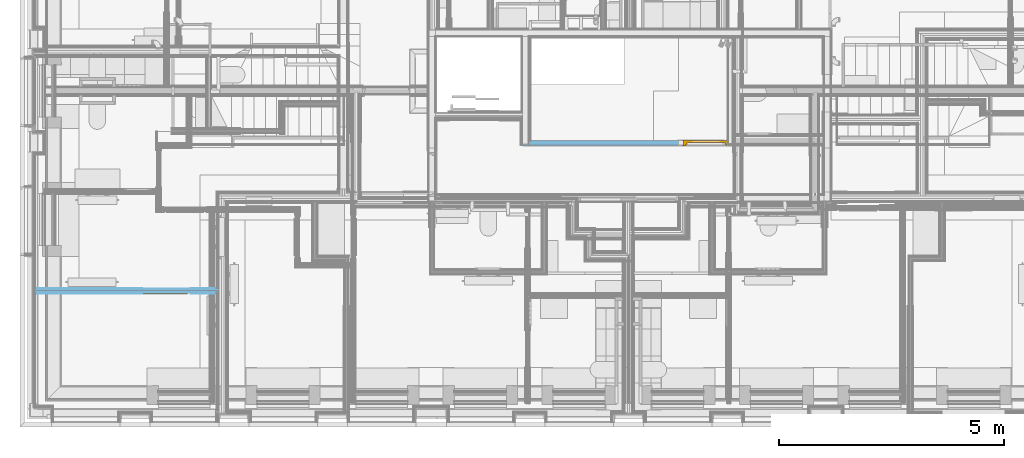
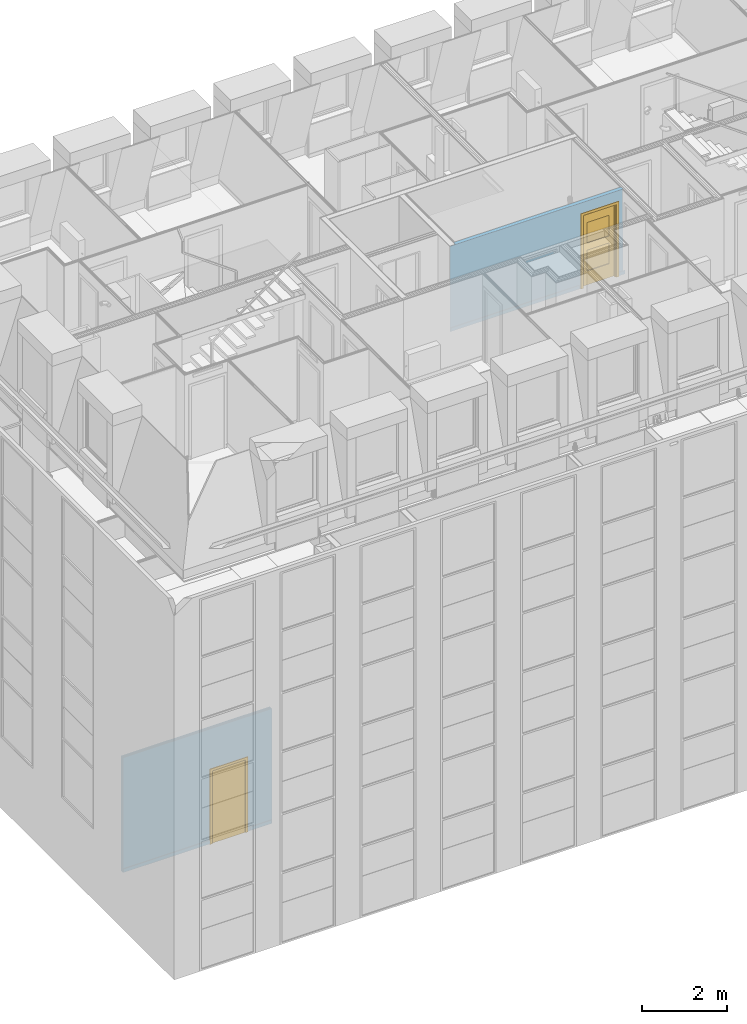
# One storey, part 84 of 169: 2 doors, 2 openings, 1 element without a shape of its own, plus 8 elements that do not belong to this part.
"""IFC2X3 building model written with IfcOpenShell, lengths in metres."""

from ifc_helpers import new_model, entity, si_unit, converted_unit, derived_unit, money_unit, direction, frame, frame_2d, origin_with_axes, place, context, subcontext, project, spatial, polyline, rectangle, outline, extrude, clip, bounded_halfspace, faceted_brep, material, layer, layer_set, layer_usage, type_object, element, fill, aggregate, save


model = new_model("IFC2X3")

# Units and contexts
model_context = context("Model", 3, precision=1e-05, world=origin_with_axes(), true_north=direction((0.0, 1.0)))
body_context = subcontext(model_context, "Body", "Model", "MODEL_VIEW", scale=1.0)
ifc_project = project(units=[si_unit("LENGTHUNIT", "METRE"), si_unit("AREAUNIT", "SQUARE_METRE"), si_unit("VOLUMEUNIT", "CUBIC_METRE"), si_unit("ABSORBEDDOSEUNIT", "GRAY"), si_unit("AMOUNTOFSUBSTANCEUNIT", "MOLE"), si_unit("DOSEEQUIVALENTUNIT", "SIEVERT"), si_unit("ELECTRICCAPACITANCEUNIT", "FARAD"), si_unit("ELECTRICCHARGEUNIT", "COULOMB"), si_unit("ELECTRICCONDUCTANCEUNIT", "SIEMENS"), si_unit("ELECTRICCURRENTUNIT", "AMPERE"), si_unit("ELECTRICRESISTANCEUNIT", "OHM"), si_unit("ELECTRICVOLTAGEUNIT", "VOLT"), si_unit("ENERGYUNIT", "JOULE"), si_unit("FORCEUNIT", "NEWTON"), si_unit("FREQUENCYUNIT", "HERTZ"), si_unit("ILLUMINANCEUNIT", "LUX"), si_unit("INDUCTANCEUNIT", "HENRY"), si_unit("LUMINOUSFLUXUNIT", "LUMEN"), si_unit("LUMINOUSINTENSITYUNIT", "CANDELA"), si_unit("MAGNETICFLUXDENSITYUNIT", "TESLA"), si_unit("MAGNETICFLUXUNIT", "WEBER"), si_unit("MASSUNIT", "GRAM"), converted_unit("PLANEANGLEUNIT", "degree", entity("IfcReal", 0.0174532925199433), si_unit("PLANEANGLEUNIT", "RADIAN"), dimensions=[0, 0, 0, 0, 0, 0, 0]), si_unit("POWERUNIT", "WATT"), si_unit("PRESSUREUNIT", "PASCAL"), si_unit("RADIOACTIVITYUNIT", "BECQUEREL"), si_unit("SOLIDANGLEUNIT", "STERADIAN"), si_unit("THERMODYNAMICTEMPERATUREUNIT", "KELVIN"), si_unit("TIMEUNIT", "SECOND"), derived_unit("ACCELERATIONUNIT", [(si_unit("LENGTHUNIT", "METRE"), 1), (si_unit("TIMEUNIT", "SECOND"), -2)]), derived_unit("ANGULARVELOCITYUNIT", [(converted_unit("PLANEANGLEUNIT", "degree", entity("IfcReal", 0.0174532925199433), si_unit("PLANEANGLEUNIT", "RADIAN"), dimensions=[0, 0, 0, 0, 0, 0, 0]), 1), (si_unit("TIMEUNIT", "SECOND"), -1)]), derived_unit("CURVATUREUNIT", [(converted_unit("PLANEANGLEUNIT", "degree", entity("IfcReal", 0.0174532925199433), si_unit("PLANEANGLEUNIT", "RADIAN"), dimensions=[0, 0, 0, 0, 0, 0, 0]), 1), (si_unit("LENGTHUNIT", "METRE"), -1)]), derived_unit("DYNAMICVISCOSITYUNIT", [(si_unit("PRESSUREUNIT", "PASCAL"), 1), (si_unit("TIMEUNIT", "SECOND"), 1)]), derived_unit("HEATFLUXDENSITYUNIT", [(si_unit("POWERUNIT", "WATT"), 1), (si_unit("LENGTHUNIT", "METRE"), -2)]), derived_unit("HEATINGVALUEUNIT", [(si_unit("ENERGYUNIT", "JOULE"), 1), (si_unit("MASSUNIT", "GRAM"), -1)]), derived_unit("INTEGERCOUNTRATEUNIT", [(si_unit("TIMEUNIT", "SECOND"), -1)]), derived_unit("IONCONCENTRATIONUNIT", [(si_unit("MASSUNIT", "GRAM"), 1), (si_unit("VOLUMEUNIT", "CUBIC_METRE"), -1)]), derived_unit("ISOTHERMALMOISTURECAPACITYUNIT", [(si_unit("VOLUMEUNIT", "CUBIC_METRE"), 1), (si_unit("MASSUNIT", "GRAM"), -1)]), derived_unit("KINEMATICVISCOSITYUNIT", [(si_unit("AREAUNIT", "SQUARE_METRE"), 1), (si_unit("TIMEUNIT", "SECOND"), -1)]), derived_unit("LINEARFORCEUNIT", [(si_unit("FORCEUNIT", "NEWTON"), 1), (si_unit("LENGTHUNIT", "METRE"), -1)]), derived_unit("LINEARMOMENTUNIT", [(si_unit("FORCEUNIT", "NEWTON"), 1), (si_unit("LENGTHUNIT", "METRE"), -1)]), derived_unit("LINEARSTIFFNESSUNIT", [(si_unit("FORCEUNIT", "NEWTON"), 1), (si_unit("LENGTHUNIT", "METRE"), -1)]), derived_unit("LINEARVELOCITYUNIT", [(si_unit("LENGTHUNIT", "METRE"), 1), (si_unit("TIMEUNIT", "SECOND"), -1)]), derived_unit("LUMINOUSINTENSITYDISTRIBUTIONUNIT", [(si_unit("LUMINOUSINTENSITYUNIT", "CANDELA"), 1), (si_unit("LUMINOUSFLUXUNIT", "LUMEN"), -1)]), derived_unit("MASSDENSITYUNIT", [(si_unit("MASSUNIT", "GRAM"), 1), (si_unit("VOLUMEUNIT", "CUBIC_METRE"), -1)]), derived_unit("MASSFLOWRATEUNIT", [(si_unit("MASSUNIT", "GRAM"), 1), (si_unit("TIMEUNIT", "SECOND"), -1)]), derived_unit("MASSPERLENGTHUNIT", [(si_unit("MASSUNIT", "GRAM"), 1), (si_unit("LENGTHUNIT", "METRE"), -1)]), derived_unit("MODULUSOFELASTICITYUNIT", [(si_unit("FORCEUNIT", "NEWTON"), 1), (si_unit("AREAUNIT", "SQUARE_METRE"), -1)]), derived_unit("MODULUSOFLINEARSUBGRADEREACTIONUNIT", [(si_unit("FORCEUNIT", "NEWTON"), 1), (si_unit("LENGTHUNIT", "METRE"), -2)]), derived_unit("MODULUSOFROTATIONALSUBGRADEREACTIONUNIT", [(si_unit("FORCEUNIT", "NEWTON"), 1), (si_unit("LENGTHUNIT", "METRE"), 1)]), derived_unit("MODULUSOFSUBGRADEREACTIONUNIT", [(si_unit("FORCEUNIT", "NEWTON"), 1), (si_unit("VOLUMEUNIT", "CUBIC_METRE"), -1)]), derived_unit("MOISTUREDIFFUSIVITYUNIT", [(si_unit("VOLUMEUNIT", "CUBIC_METRE"), 1), (si_unit("TIMEUNIT", "SECOND"), -1)]), derived_unit("MOLECULARWEIGHTUNIT", [(si_unit("MASSUNIT", "GRAM"), 1), (si_unit("AMOUNTOFSUBSTANCEUNIT", "MOLE"), -1)]), derived_unit("PLANARFORCEUNIT", [(si_unit("FORCEUNIT", "NEWTON"), 1), (si_unit("LENGTHUNIT", "METRE"), -2)]), derived_unit("ROTATIONALFREQUENCYUNIT", [(si_unit("TIMEUNIT", "SECOND"), -1)]), derived_unit("ROTATIONALMASSUNIT", [(si_unit("MASSUNIT", "GRAM"), 1), (si_unit("LENGTHUNIT", "METRE"), 2)]), derived_unit("ROTATIONALSTIFFNESSUNIT", [(si_unit("FORCEUNIT", "NEWTON"), 1), (si_unit("LENGTHUNIT", "METRE"), 1), (converted_unit("PLANEANGLEUNIT", "degree", entity("IfcReal", 0.0174532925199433), si_unit("PLANEANGLEUNIT", "RADIAN"), dimensions=[0, 0, 0, 0, 0, 0, 0]), -1)]), derived_unit("SECTIONAREAINTEGRALUNIT", [(si_unit("LENGTHUNIT", "METRE"), 5)]), derived_unit("SECTIONMODULUSUNIT", [(si_unit("LENGTHUNIT", "METRE"), 3)]), derived_unit("SHEARMODULUSUNIT", [(si_unit("FORCEUNIT", "NEWTON"), 1), (si_unit("AREAUNIT", "SQUARE_METRE"), -1)]), derived_unit("SOUNDPOWERUNIT", [(si_unit("ENERGYUNIT", "JOULE"), 1), (si_unit("TIMEUNIT", "SECOND"), -1)]), derived_unit("SPECIFICHEATCAPACITYUNIT", [(si_unit("FORCEUNIT", "NEWTON"), 1), (si_unit("MASSUNIT", "GRAM"), -1), (si_unit("THERMODYNAMICTEMPERATUREUNIT", "KELVIN"), -1)]), derived_unit("TEMPERATUREGRADIENTUNIT", [(si_unit("THERMODYNAMICTEMPERATUREUNIT", "KELVIN"), 1), (si_unit("LENGTHUNIT", "METRE"), -1)]), derived_unit("THERMALADMITTANCEUNIT", [(si_unit("POWERUNIT", "WATT"), 1), (si_unit("AREAUNIT", "SQUARE_METRE"), -1), (si_unit("THERMODYNAMICTEMPERATUREUNIT", "KELVIN"), -1)]), derived_unit("THERMALCONDUCTANCEUNIT", [(si_unit("POWERUNIT", "WATT"), 1), (si_unit("LENGTHUNIT", "METRE"), -1), (si_unit("THERMODYNAMICTEMPERATUREUNIT", "KELVIN"), -1)]), derived_unit("THERMALEXPANSIONCOEFFICIENTUNIT", [(si_unit("THERMODYNAMICTEMPERATUREUNIT", "KELVIN"), -1)]), derived_unit("THERMALRESISTANCEUNIT", [(si_unit("AREAUNIT", "SQUARE_METRE"), 1), (si_unit("POWERUNIT", "WATT"), -1)]), derived_unit("THERMALTRANSMITTANCEUNIT", [(si_unit("POWERUNIT", "WATT"), 1), (si_unit("AREAUNIT", "SQUARE_METRE"), -1), (si_unit("THERMODYNAMICTEMPERATUREUNIT", "KELVIN"), -1)]), derived_unit("TORQUEUNIT", [(si_unit("FORCEUNIT", "NEWTON"), 1), (si_unit("LENGTHUNIT", "METRE"), 1)]), derived_unit("VAPORPERMEABILITYUNIT", [(si_unit("MASSUNIT", "GRAM"), 1), (si_unit("TIMEUNIT", "SECOND"), -1)]), derived_unit("VOLUMETRICFLOWRATEUNIT", [(si_unit("VOLUMEUNIT", "CUBIC_METRE"), 1), (si_unit("TIMEUNIT", "SECOND"), -1)]), derived_unit("WARPINGCONSTANTUNIT", [(si_unit("LENGTHUNIT", "METRE"), 6)]), derived_unit("WARPINGMOMENTUNIT", [(si_unit("FORCEUNIT", "NEWTON"), 1), (si_unit("LENGTHUNIT", "METRE"), 2)]), money_unit("GBP")], contexts=[model_context])

# Site, building, storey
site_placement = place(None, origin_with_axes())
site = spatial("IfcSite", under=ifc_project, at=site_placement, Name="Site", CompositionType="ELEMENT")
building_placement = place(site_placement, origin_with_axes())
building = spatial("IfcBuilding", under=site, at=building_placement, Name="Building01", CompositionType="ELEMENT")
storey_placement = place(building_placement, frame((0.0, 0.0, 5.15), z_axis=(0.0, 0.0, 1.0), x_axis=(1.0, 0.0, 0.0)))
storey = spatial("IfcBuildingStorey", under=building, at=storey_placement, Name="1F", CompositionType="ELEMENT", Elevation=5.15)

# Wall, opening
ifc_material_1 = material(Name="A_BSUK_Walls_Timber")
ifc_layer_1 = layer(ifc_material_1, 0.015, ventilated=False)
ifc_material_2 = material(Name="A_BSUK_WallInternal_Finishes_Plasterboard")
ifc_layer_2 = layer(ifc_material_2, 0.013, ventilated=False)
ifc_layer_3 = layer(ifc_material_2, 0.012, ventilated=False)
ifc_material_3 = material(Name="Air Cavity")
ifc_layer_4 = layer(ifc_material_3, 0.05, ventilated=False)
ifc_layer_set = layer_set([ifc_layer_1, ifc_layer_2, ifc_layer_3, ifc_layer_4, ifc_layer_3, ifc_layer_2])
ifc_layer_usage = layer_usage(ifc_layer_set, "AXIS2", "POSITIVE", 0.0)
wall_type_1 = type_object("IfcWallType", Name="SHE_A-Walls_Type03c_Firewall_F120_100mm", PredefinedType="NOTDEFINED")
wall_1_placement = place(storey_placement, frame((11.16, 6.25, 9.845), z_axis=(0.0, 0.0, 1.0), x_axis=(1.0, 0.0, 0.0)))
wall_1 = element("IfcWallStandardCase", 1, at=wall_1_placement, inside=storey, type_object=wall_type_1, material=ifc_layer_usage, Name="3C", ObjectType="SHE_A-Walls_Type03c_Firewall_F120_100mm", context=body_context, shape_type="Clipping", body=[
    clip(clip(extrude(outline(polyline([(4.67844, 0.0), (4.67844, 0.013), (4.70844, 0.013), (4.70844, 0.075), (4.69344, 0.087), (4.69344, 0.1), (0.14, 0.1), (0.14, 0.013), (-0.015, 0.013), (-0.015, 0.0), (0.0, 0.0), (0.0, -0.015), (4.75344, -0.015), (4.75344, 0.0), (4.67844, 0.0)])), frame((0.0, 0.0, -0.015), z_axis=(0.0, 0.0, 1.0), x_axis=(1.0, 0.0, 0.0)), (0.0, 0.0, 1.0), 2.468), bounded_halfspace(frame((0.0, 0.0, 0.1), z_axis=(0.0, 0.0, 1.0), x_axis=(1.0, 0.0, 0.0)), False, frame((0.0, 0.0, 0.1), z_axis=(0.0, 0.0, 1.0), x_axis=(1.0, 0.0, 0.0)), polyline([(4.75344, 0.0), (0.0, 0.0), (0.0, -0.015), (4.75344, -0.015), (4.75344, 0.0)]))), bounded_halfspace(frame((0.0, 0.0, 0.0), z_axis=(0.0, 0.0, -1.0), x_axis=(-1.0, 0.0, 0.0)), False, frame((0.0, 0.0, 0.0), z_axis=(0.0, 0.0, -1.0), x_axis=(-1.0, 0.0, 0.0)), polyline([(-4.75344, -0.015), (0.0, -0.015), (0.0, 0.0), (-4.75344, 0.0), (-4.75344, -0.015)]))),
])
opening_1_placement = place(wall_1_placement, frame((3.56744, -0.015, -0.03), z_axis=(0.0, 0.0, 1.0), x_axis=(1.0, 0.0, 0.0)))
opening_1 = element("IfcOpeningElement", 2, at=opening_1_placement, cuts=wall_1, Name="Opening", ObjectType="Opening", context=body_context, shape_type="SweptSolid", body=[
    extrude(outline(polyline([(0.0, 0.0), (0.0, 2.157), (-0.984, 2.157), (-0.984, 0.015), (-0.91756, 0.015), (-0.91756, 0.0), (0.0, 0.0)])), frame((0.0, 0.0, 0.0), z_axis=(0.0, 1.0, 0.0), x_axis=(-1.0, 0.0, 0.0)), (0.0, 0.0, 1.0), 0.115),
    extrude(rectangle(XDim=0.984, YDim=2.157, at=frame_2d((-0.492, 1.0785), x_axis=(1.0, 0.0))), frame((0.0, 0.015, 0.0), z_axis=(0.0, 1.0, 0.0), x_axis=(-1.0, 0.0, 0.0)), (0.0, 0.0, 1.0), 0.013),
    extrude(outline(polyline([(0.0, 2.142), (0.0, 2.157), (-0.984, 2.157), (-0.984, 0.015), (-0.91756, 0.015), (-0.91756, 0.0), (0.06644, 0.0), (0.06644, 2.142), (0.0, 2.142)])), frame((0.0, 0.0, 0.0), z_axis=(0.0, 1.0, 0.0), x_axis=(-1.0, 0.0, 0.0)), (0.0, 0.0, 1.0), 0.015),
    extrude(rectangle(XDim=0.984, YDim=2.157, at=frame_2d((-0.492, 1.0785), x_axis=(1.0, 0.0))), frame((0.0, 0.028, 0.0), z_axis=(0.0, 1.0, 0.0), x_axis=(-1.0, 0.0, 0.0)), (0.0, 0.0, 1.0), 0.012),
    extrude(rectangle(XDim=0.984, YDim=2.157, at=frame_2d((-0.492, 1.0785), x_axis=(1.0, 0.0))), frame((0.0, 0.04, 0.0), z_axis=(0.0, 1.0, 0.0), x_axis=(-1.0, 0.0, 0.0)), (0.0, 0.0, 1.0), 0.05),
    extrude(rectangle(XDim=0.984, YDim=2.157, at=frame_2d((-0.492, 1.0785), x_axis=(1.0, 0.0))), frame((0.0, 0.09, 0.0), z_axis=(0.0, 1.0, 0.0), x_axis=(-1.0, 0.0, 0.0)), (0.0, 0.0, 1.0), 0.012),
    extrude(rectangle(XDim=0.984, YDim=2.157, at=frame_2d((-0.492, 1.0785), x_axis=(1.0, 0.0))), frame((0.0, 0.102, 0.0), z_axis=(0.0, 1.0, 0.0), x_axis=(-1.0, 0.0, 0.0)), (0.0, 0.0, 1.0), 0.013),
])

# Space
space_1_placement = place(storey_placement, frame((15.83844, 8.649812, 9.86), z_axis=(0.0, 0.0, 1.0), x_axis=(-1.0, 0.0, 0.0)))
space_1 = spatial("IfcSpace", under=storey, at=space_1_placement, Name="landing", CompositionType="ELEMENT", InteriorOrExteriorSpace="NOTDEFINED")

# Door
ifc_material_4 = material(Name="A_BSUK_Doors")
door_style_1 = type_object("IfcDoorStyle", Name="A-Doors-SingleVisionPanels", ConstructionType="USERDEFINED", OperationType="SINGLE_SWING_RIGHT", ParameterTakesPrecedence=False, Sizeable=False)
door_1_placement = place(opening_1_placement, frame((0.042, 0.115, 0.015), z_axis=(0.0, 0.0, 1.0), x_axis=(1.0, 0.0, 0.0)))
door_1 = element("IfcDoor", 3, at=door_1_placement, inside=space_1, type_object=door_style_1, material=ifc_material_4, Name="4.04", ObjectType="A-Doors-SingleVisionPanels", OverallHeight=2.15700000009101, OverallWidth=1.05043971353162, context=body_context, shape_type="Brep", body=[
    faceted_brep([(0.9, -0.119, 0.0), (0.969, -0.119, 0.0), (0.969, -0.119, 2.169), (-0.069, -0.119, 2.169), (-0.069, -0.119, 0.0), (0.0, -0.119, 0.0), (0.0, -0.119, 2.1), (0.9, -0.119, 2.1), (-0.069, -0.1, 0.0), (-0.069, -0.1, 2.169), (0.969, -0.1, 2.169), (0.969, -0.1, 0.0), (0.9, 0.019, 0.0), (0.969, 0.019, 0.0), (0.969, 0.0, 0.0), (0.942, 0.0, 0.0), (0.942, -0.1, 0.0), (0.9, 0.019, 2.1), (0.0, 0.019, 2.1), (0.0, 0.019, 0.0), (-0.069, 0.019, 0.0), (-0.069, 0.019, 2.169), (0.969, 0.019, 2.169), (0.969, 0.0, 2.169), (0.942, -0.1, 2.142), (0.942, 0.0, 2.142), (-0.042, -0.1, 2.142), (-0.042, 0.0, 2.142), (-0.042, -0.1, 0.0), (-0.042, 0.0, 0.0), (-0.069, 0.0, 2.169), (-0.069, 0.0, 0.0)], [[[0, 1, 2, 3, 4, 5, 6, 7]], [[8, 4, 3, 9]], [[10, 2, 1, 11]], [[9, 3, 2, 10]], [[12, 13, 14, 15, 16, 11, 1, 0]], [[7, 17, 12, 0]], [[6, 18, 17, 7]], [[18, 19, 20, 21, 22, 13, 12, 17]], [[5, 19, 18, 6]], [[13, 22, 23, 14]], [[24, 16, 15, 25]], [[26, 24, 25, 27]], [[11, 16, 24, 26, 28, 8, 9, 10]], [[27, 29, 28, 26]], [[25, 15, 14, 23, 30, 31, 29, 27]], [[5, 4, 8, 28, 29, 31, 20, 19]], [[30, 21, 20, 31]], [[23, 22, 21, 30]]]),
    faceted_brep([(0.0, -0.09, 2.1), (0.0, -0.04, 2.1), (0.0, -0.04, 0.0), (0.0, -0.09, 0.0), (0.875, -0.09, 0.0), (0.9, -0.09, 0.0), (0.9, -0.09, 2.1), (0.025, -0.09, 0.0), (0.025, -0.09, 2.075), (0.875, -0.09, 2.075), (0.875, -0.04, 0.0), (0.9, -0.04, 0.0), (0.9, -0.04, 2.1), (0.025, -0.04, 2.075), (0.025, -0.04, 0.0), (0.875, -0.04, 2.075)], [[[0, 1, 2, 3]], [[4, 5, 6, 0, 3, 7, 8, 9]], [[10, 11, 5, 4]], [[6, 12, 1, 0]], [[5, 11, 12, 6]], [[13, 14, 2, 1, 12, 11, 10, 15]], [[7, 14, 13, 8]], [[7, 3, 2, 14]], [[9, 15, 10, 4]], [[8, 13, 15, 9]]]),
    faceted_brep([(0.75, -0.017, 1.0), (0.75, -0.023, 1.0), (0.75, -0.023, 0.4), (0.75, -0.017, 0.4), (0.15, -0.017, 0.4), (0.15, -0.023, 0.4), (0.15, -0.023, 1.0), (0.15, -0.017, 1.0)], [[[0, 1, 2, 3]], [[4, 5, 6, 7]], [[7, 6, 1, 0]], [[3, 4, 7, 0]], [[3, 2, 5, 4]], [[1, 6, 5, 2]]]),
    faceted_brep([(0.75, -0.017, 1.8), (0.75, -0.023, 1.8), (0.75, -0.023, 1.2), (0.75, -0.017, 1.2), (0.15, -0.017, 1.2), (0.15, -0.023, 1.2), (0.15, -0.023, 1.8), (0.15, -0.017, 1.8)], [[[0, 1, 2, 3]], [[4, 5, 6, 7]], [[7, 6, 1, 0]], [[3, 4, 7, 0]], [[3, 2, 5, 4]], [[1, 6, 5, 2]]]),
    faceted_brep([(0.15, -0.04, 1.8), (0.15, 0.0, 1.8), (0.75, 0.0, 1.8), (0.75, -0.04, 1.8), (0.15, -0.04, 0.4), (0.15, 0.0, 0.4), (0.15, 0.0, 1.0), (0.15, -0.04, 1.0), (0.75, -0.04, 0.4), (0.75, 0.0, 0.4), (0.75, -0.04, 1.0), (0.75, 0.0, 1.0), (0.0, 0.0, 2.1), (0.9, 0.0, 2.1), (0.9, 0.0, 0.0), (0.0, 0.0, 0.0), (0.15, 0.0, 1.2), (0.75, 0.0, 1.2), (0.0, -0.04, 2.1), (0.0, -0.04, 0.0), (0.9, -0.04, 2.1), (0.9, -0.04, 0.0), (0.15, -0.04, 1.2), (0.75, -0.04, 1.2)], [[[0, 1, 2, 3]], [[4, 5, 6, 7]], [[8, 9, 5, 4]], [[10, 11, 9, 8]], [[7, 6, 11, 10]], [[12, 13, 14, 15], [5, 9, 11, 6], [16, 17, 2, 1]], [[18, 12, 15, 19]], [[20, 13, 12, 18]], [[21, 14, 13, 20]], [[19, 15, 14, 21]], [[22, 16, 1, 0]], [[23, 17, 16, 22]], [[3, 2, 17, 23]], [[19, 21, 20, 18], [4, 7, 10, 8], [22, 0, 3, 23]]]),
])

fill(opening_1, door_1)

# Space
space_2_placement = place(storey_placement, frame((0.318, 8.21067, 0.017975), z_axis=(0.0, 0.0, 1.0), x_axis=(0.0, -1.0, 0.0)))
space_2 = spatial("IfcSpace", under=storey, at=space_2_placement, Name="06", CompositionType="ELEMENT", InteriorOrExteriorSpace="NOTDEFINED")

# Door
door_style_2 = type_object("IfcDoorStyle", Name="A-Doors-SingleFlush", ConstructionType="USERDEFINED", OperationType="SINGLE_SWING_LEFT", ParameterTakesPrecedence=False, Sizeable=False)
wall_2_placement = place(storey_placement, frame((0.318, 3.030286, 0.0), z_axis=(0.0, 0.0, 1.0), x_axis=(1.0, 0.0, 0.0)))
opening_2_placement = place(wall_2_placement, frame((2.391, -0.075, -0.03), z_axis=(0.0, 0.0, 1.0), x_axis=(1.0, 0.0, 0.0)))
door_2_placement = place(opening_2_placement, frame((0.942, 0.015, 0.03), z_axis=(0.0, 0.0, 1.0), x_axis=(-1.0, 0.0, 0.0)))
door_2 = element("IfcDoor", 4, at=door_2_placement, inside=space_2, type_object=door_style_2, material=ifc_material_4, Name="1.19", ObjectType="A-Doors-SingleFlush", OverallHeight=2.17200000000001, OverallWidth=1.08300000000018, context=body_context, shape_type="Brep", body=[
    faceted_brep([(0.0, -0.114, 2.1), (0.9, -0.114, 2.1), (0.9, -0.114, 0.0), (0.969, -0.114, 0.0), (0.969, -0.114, 2.169), (-0.069, -0.114, 2.169), (-0.069, -0.114, 0.0), (0.0, -0.114, 0.0), (0.969, -0.095, 2.169), (0.969, -0.095, 0.0), (-0.069, -0.095, 0.0), (-0.069, -0.095, 2.169), (-0.042, -0.095, 0.0), (-0.042, 0.0, 0.0), (-0.069, 0.0, 0.0), (-0.069, 0.019, 0.0), (0.0, 0.019, 0.0), (0.0, 0.019, 2.1), (0.9, 0.019, 2.1), (-0.069, 0.019, 2.169), (0.969, 0.019, 2.169), (0.969, 0.019, 0.0), (0.9, 0.019, 0.0), (-0.069, 0.0, 2.169), (-0.042, 0.0, 2.142), (-0.042, -0.095, 2.142), (0.942, 0.0, 2.142), (0.942, -0.095, 2.142), (0.942, -0.095, 0.0), (0.942, 0.0, 0.0), (0.969, 0.0, 0.0), (0.969, 0.0, 2.169)], [[[0, 1, 2, 3, 4, 5, 6, 7]], [[8, 4, 3, 9]], [[10, 6, 5, 11]], [[11, 5, 4, 8]], [[7, 6, 10, 12, 13, 14, 15, 16]], [[7, 16, 17, 0]], [[0, 17, 18, 1]], [[17, 16, 15, 19, 20, 21, 22, 18]], [[1, 18, 22, 2]], [[14, 23, 19, 15]], [[24, 13, 12, 25]], [[26, 24, 25, 27]], [[11, 8, 9, 28, 27, 25, 12, 10]], [[27, 28, 29, 26]], [[26, 29, 30, 31, 23, 14, 13, 24]], [[22, 21, 30, 29, 28, 9, 3, 2]], [[30, 21, 20, 31]], [[31, 20, 19, 23]]]),
    faceted_brep([(0.9, -0.09, 0.0), (0.9, -0.04, 0.0), (0.9, -0.04, 2.1), (0.9, -0.09, 2.1), (0.025, -0.09, 2.075), (0.875, -0.09, 2.075), (0.875, -0.09, 0.0), (0.0, -0.09, 2.1), (0.0, -0.09, 0.0), (0.025, -0.09, 0.0), (0.0, -0.04, 0.0), (0.025, -0.04, 0.0), (0.0, -0.04, 2.1), (0.025, -0.04, 2.075), (0.875, -0.04, 0.0), (0.875, -0.04, 2.075)], [[[0, 1, 2, 3]], [[4, 5, 6, 0, 3, 7, 8, 9]], [[9, 8, 10, 11]], [[3, 2, 12, 7]], [[7, 12, 10, 8]], [[13, 11, 10, 12, 2, 1, 14, 15]], [[5, 15, 14, 6]], [[14, 1, 0, 6]], [[9, 11, 13, 4]], [[4, 13, 15, 5]]]),
    faceted_brep([(0.0, -0.04, 2.1), (0.0, 0.0, 2.1), (0.0, 0.0, 0.0), (0.0, -0.04, 0.0), (0.9, -0.04, 0.0), (0.9, 0.0, 0.0), (0.9, 0.0, 2.1), (0.9, -0.04, 2.1)], [[[0, 1, 2, 3]], [[4, 5, 6, 7]], [[3, 2, 5, 4]], [[3, 4, 7, 0]], [[7, 6, 1, 0]], [[1, 6, 5, 2]]]),
])

# Wall, opening
wall_type_2 = type_object("IfcWallType", Name="SHE_A-Walls_Type05a_Partition_95mm_tall", PredefinedType="NOTDEFINED")
wall_2 = element("IfcWall", 5, at=wall_2_placement, inside=storey, type_object=wall_type_2, Name="5A", ObjectType="SHE_A-Walls_Type05a_Partition_95mm_tall")
opening_2 = element("IfcOpeningElement", 6, at=opening_2_placement, cuts=wall_2, Name="Opening", ObjectType="Opening", context=body_context, shape_type="SweptSolid", body=[
    extrude(outline(polyline([(-0.984, 0.0), (-0.099, 0.0), (-0.099, 0.03), (0.0, 0.03), (0.0, 2.172), (-0.984, 2.172), (-0.984, 0.0)])), frame((0.0, 0.0, 0.0), z_axis=(0.0, 1.0, 0.0), x_axis=(-1.0, 0.0, 0.0)), (0.0, 0.0, 1.0), 0.125),
    extrude(rectangle(XDim=0.984, YDim=2.172, at=frame_2d((-0.492, 1.086), x_axis=(1.0, 0.0))), frame((0.0, 0.015, 0.0), z_axis=(0.0, 1.0, 0.0), x_axis=(-1.0, 0.0, 0.0)), (0.0, 0.0, 1.0), 0.012),
    extrude(outline(polyline([(-0.099, 0.03), (0.0, 0.03), (0.0, 2.172), (-0.984, 2.172), (-0.984, 2.142), (-1.083, 2.142), (-1.083, 0.0), (-0.099, 0.0), (-0.099, 0.03)])), frame((0.0, 0.0, 0.0), z_axis=(0.0, 1.0, 0.0), x_axis=(-1.0, 0.0, 0.0)), (0.0, 0.0, 1.0), 0.015),
    extrude(rectangle(XDim=0.984, YDim=2.172, at=frame_2d((-0.492, 1.086), x_axis=(1.0, 0.0))), frame((0.0, 0.027, 0.0), z_axis=(0.0, 1.0, 0.0), x_axis=(-1.0, 0.0, 0.0)), (0.0, 0.0, 1.0), 0.023),
    extrude(outline(polyline([(-0.984, 0.0), (-0.042, 0.0), (-0.042, 0.03), (0.0, 0.03), (0.0, 2.172), (-0.984, 2.172), (-0.984, 0.0)])), frame((0.0, 0.05, 0.0), z_axis=(0.0, 1.0, 0.0), x_axis=(-1.0, 0.0, 0.0)), (0.0, 0.0, 1.0), 0.025),
    extrude(outline(polyline([(-0.984, 0.0), (-0.042, 0.0), (-0.042, 0.03), (0.0, 0.03), (0.0, 2.172), (-0.984, 2.172), (-0.984, 0.0)])), frame((0.0, 0.075, 0.0), z_axis=(0.0, 1.0, 0.0), x_axis=(-1.0, 0.0, 0.0)), (0.0, 0.0, 1.0), 0.023),
    extrude(outline(polyline([(-0.984, 0.0), (-0.042, 0.0), (-0.042, 0.03), (0.0, 0.03), (0.0, 2.172), (-0.984, 2.172), (-0.984, 0.0)])), frame((0.0, 0.098, 0.0), z_axis=(0.0, 1.0, 0.0), x_axis=(-1.0, 0.0, 0.0)), (0.0, 0.0, 1.0), 0.012),
    extrude(outline(polyline([(-0.099, 0.03), (0.0, 0.03), (0.0, 2.172), (-0.984, 2.172), (-0.984, 2.142), (-1.083, 2.142), (-1.083, 0.0), (-0.099, 0.0), (-0.099, 0.03)])), frame((0.0, 0.11, 0.0), z_axis=(0.0, 1.0, 0.0), x_axis=(-1.0, 0.0, 0.0)), (0.0, 0.0, 1.0), 0.015),
])

fill(opening_2, door_2)

# Building element part
placement = place(wall_2_placement, origin_with_axes())
building_element_part_1 = element("IfcBuildingElementPart", 7, at=placement, material=ifc_material_1, Name="1", context=body_context, shape_type="SweptSolid", body=[
    extrude(rectangle(XDim=4.037, YDim=0.015, at=frame_2d((2.0335, -0.0675), x_axis=(-1.0, 0.0))), frame((0.0, 0.0, 0.015), z_axis=(0.0, 0.0, 1.0), x_axis=(1.0, 0.0, 0.0)), (0.0, 0.0, 1.0), 0.1),
])

building_element_part_2 = element("IfcBuildingElementPart", 8, at=placement, material=ifc_material_2, Name="2", context=body_context, shape_type="SweptSolid", body=[
    extrude(rectangle(XDim=4.067, YDim=0.012, at=frame_2d((2.0335, -0.054), x_axis=(-1.0, 0.0))), origin_with_axes(), (0.0, 0.0, 1.0), 3.32),
])

building_element_part_3 = element("IfcBuildingElementPart", 9, at=placement, material=ifc_material_3, Name="3", context=body_context, shape_type="SweptSolid", body=[
    extrude(rectangle(XDim=4.067, YDim=0.023, at=frame_2d((2.0335, -0.0365), x_axis=(-1.0, 0.0))), origin_with_axes(), (0.0, 0.0, 1.0), 3.32),
])

ifc_material_5 = material(Name="A_BSUK_Insulation")
building_element_part_4 = element("IfcBuildingElementPart", 10, at=placement, material=ifc_material_5, Name="4", context=body_context, shape_type="SweptSolid", body=[
    extrude(rectangle(XDim=4.067, YDim=0.025, at=frame_2d((2.0335, -0.0125), x_axis=(-1.0, 0.0))), origin_with_axes(), (0.0, 0.0, 1.0), 3.32),
])

building_element_part_5 = element("IfcBuildingElementPart", 11, at=placement, material=ifc_material_3, Name="5", context=body_context, shape_type="SweptSolid", body=[
    extrude(rectangle(XDim=4.067, YDim=0.023, at=frame_2d((2.0335, 0.0115), x_axis=(-1.0, 0.0))), origin_with_axes(), (0.0, 0.0, 1.0), 3.32),
])

building_element_part_6 = element("IfcBuildingElementPart", 12, at=placement, material=ifc_material_2, Name="6", context=body_context, shape_type="SweptSolid", body=[
    extrude(rectangle(XDim=4.067, YDim=0.012, at=frame_2d((2.0335, 0.029), x_axis=(-1.0, 0.0))), origin_with_axes(), (0.0, 0.0, 1.0), 3.32),
])

building_element_part_7 = element("IfcBuildingElementPart", 13, at=placement, material=ifc_material_1, Name="7", context=body_context, shape_type="SweptSolid", body=[
    extrude(rectangle(XDim=4.052, YDim=0.015, at=frame_2d((2.041, 0.0425), x_axis=(-1.0, 0.0))), frame((0.0, 0.0, 0.015), z_axis=(0.0, 0.0, 1.0), x_axis=(1.0, 0.0, 0.0)), (0.0, 0.0, 1.0), 0.1),
])

aggregate(wall_2, [building_element_part_1, building_element_part_2, building_element_part_3, building_element_part_4, building_element_part_5, building_element_part_6, building_element_part_7])

save(model, "model.ifc")
